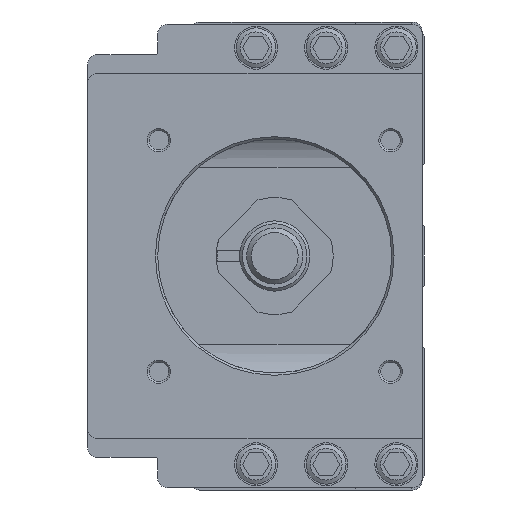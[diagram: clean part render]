
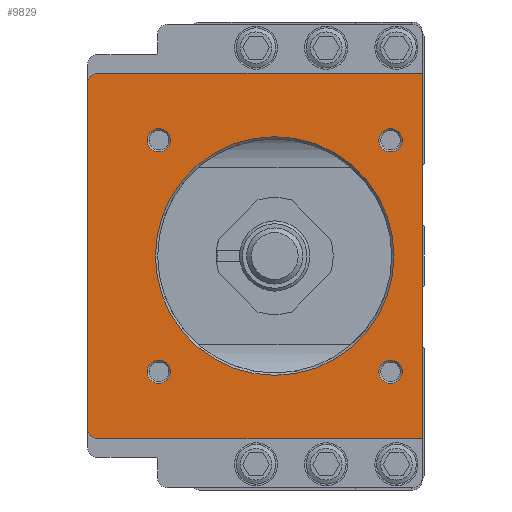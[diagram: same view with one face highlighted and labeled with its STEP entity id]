
A CAD part, left-side view. The second image highlights one B-rep face of the part: STEP entity #9829.
In plain terms, the highlighted planar face has unit normal (-1, 0, 0).
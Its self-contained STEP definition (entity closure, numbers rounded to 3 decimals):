
#422=LINE('',#14680,#1342);
#444=LINE('',#14726,#1364);
#671=LINE('',#15408,#1591);
#672=LINE('',#15410,#1592);
#1342=VECTOR('',#11597,1000.);
#1364=VECTOR('',#11625,1000.);
#1591=VECTOR('',#12334,1000.);
#1592=VECTOR('',#12337,1000.);
#3055=ORIENTED_EDGE('',*,*,#5286,.T.);
#3056=ORIENTED_EDGE('',*,*,#5287,.T.);
#3057=ORIENTED_EDGE('',*,*,#5288,.T.);
#3058=ORIENTED_EDGE('',*,*,#5289,.T.);
#3059=ORIENTED_EDGE('',*,*,#5290,.T.);
#3060=ORIENTED_EDGE('',*,*,#5280,.F.);
#3061=ORIENTED_EDGE('',*,*,#4958,.F.);
#3062=ORIENTED_EDGE('',*,*,#5285,.F.);
#3063=ORIENTED_EDGE('',*,*,#5283,.F.);
#3064=ORIENTED_EDGE('',*,*,#4934,.F.);
#3065=ORIENTED_EDGE('',*,*,#5282,.F.);
#4934=EDGE_CURVE('',#6223,#6224,#422,.T.);
#4958=EDGE_CURVE('',#6244,#6245,#444,.T.);
#5280=EDGE_CURVE('',#6245,#6458,#7176,.T.);
#5282=EDGE_CURVE('',#6458,#6223,#671,.T.);
#5283=EDGE_CURVE('',#6224,#6459,#672,.T.);
#5285=EDGE_CURVE('',#6459,#6244,#7177,.T.);
#5286=EDGE_CURVE('',#6460,#6460,#7178,.T.);
#5287=EDGE_CURVE('',#6461,#6461,#7179,.T.);
#5288=EDGE_CURVE('',#6462,#6462,#7180,.T.);
#5289=EDGE_CURVE('',#6463,#6463,#7181,.T.);
#5290=EDGE_CURVE('',#6464,#6464,#7182,.T.);
#6223=VERTEX_POINT('',#14679);
#6224=VERTEX_POINT('',#14681);
#6244=VERTEX_POINT('',#14725);
#6245=VERTEX_POINT('',#14727);
#6458=VERTEX_POINT('',#15405);
#6459=VERTEX_POINT('',#15411);
#6460=VERTEX_POINT('',#15417);
#6461=VERTEX_POINT('',#15419);
#6462=VERTEX_POINT('',#15421);
#6463=VERTEX_POINT('',#15423);
#6464=VERTEX_POINT('',#15425);
#7176=CIRCLE('',#10634,2.);
#7177=CIRCLE('',#10638,2.);
#7178=CIRCLE('',#10640,2.5);
#7179=CIRCLE('',#10641,2.5);
#7180=CIRCLE('',#10642,2.5);
#7181=CIRCLE('',#10643,2.5);
#7182=CIRCLE('',#10644,25.5);
#7659=EDGE_LOOP('',(#3055));
#7660=EDGE_LOOP('',(#3056));
#7661=EDGE_LOOP('',(#3057));
#7662=EDGE_LOOP('',(#3058));
#7663=EDGE_LOOP('',(#3059));
#7664=EDGE_LOOP('',(#3060,#3061,#3062,#3063,#3064,#3065));
#8591=FACE_BOUND('',#7659,.T.);
#8592=FACE_BOUND('',#7660,.T.);
#8593=FACE_BOUND('',#7661,.T.);
#8594=FACE_BOUND('',#7662,.T.);
#8595=FACE_BOUND('',#7663,.T.);
#8596=FACE_BOUND('',#7664,.T.);
#9392=PLANE('',#10639);
#9829=ADVANCED_FACE('',(#8591,#8592,#8593,#8594,#8595,#8596),#9392,.F.);
#10634=AXIS2_PLACEMENT_3D('',#15404,#12329,#12330);
#10638=AXIS2_PLACEMENT_3D('',#15414,#12341,#12342);
#10639=AXIS2_PLACEMENT_3D('',#15415,#12343,#12344);
#10640=AXIS2_PLACEMENT_3D('',#15416,#12345,#12346);
#10641=AXIS2_PLACEMENT_3D('',#15418,#12347,#12348);
#10642=AXIS2_PLACEMENT_3D('',#15420,#12349,#12350);
#10643=AXIS2_PLACEMENT_3D('',#15422,#12351,#12352);
#10644=AXIS2_PLACEMENT_3D('',#15424,#12353,#12354);
#11597=DIRECTION('',(0.,0.,-1.));
#11625=DIRECTION('',(0.,0.,1.));
#12329=DIRECTION('',(1.,0.,0.));
#12330=DIRECTION('',(0.,0.,-1.));
#12334=DIRECTION('',(0.,-1.,0.));
#12337=DIRECTION('',(0.,1.,0.));
#12341=DIRECTION('',(1.,0.,0.));
#12342=DIRECTION('',(0.,0.,-1.));
#12343=DIRECTION('',(1.,0.,0.));
#12344=DIRECTION('',(0.,0.,-1.));
#12345=DIRECTION('',(1.,0.,0.));
#12346=DIRECTION('',(0.,0.,-1.));
#12347=DIRECTION('',(1.,0.,0.));
#12348=DIRECTION('',(0.,0.,-1.));
#12349=DIRECTION('',(1.,0.,0.));
#12350=DIRECTION('',(0.,0.,-1.));
#12351=DIRECTION('',(1.,0.,0.));
#12352=DIRECTION('',(0.,0.,-1.));
#12353=DIRECTION('',(1.,0.,0.));
#12354=DIRECTION('',(0.,0.,-1.));
#14679=CARTESIAN_POINT('',(-94.,-31.5,39.));
#14680=CARTESIAN_POINT('',(-94.,-31.5,39.));
#14681=CARTESIAN_POINT('',(-94.,-31.5,-39.));
#14725=CARTESIAN_POINT('',(-94.,40.,-37.));
#14726=CARTESIAN_POINT('',(-94.,40.,-37.));
#14727=CARTESIAN_POINT('',(-94.,40.,37.));
#15404=CARTESIAN_POINT('',(-94.,38.,37.));
#15405=CARTESIAN_POINT('',(-94.,38.,39.));
#15408=CARTESIAN_POINT('',(-94.,38.,39.));
#15410=CARTESIAN_POINT('',(-94.,-31.5,-39.));
#15411=CARTESIAN_POINT('',(-94.,38.,-39.));
#15414=CARTESIAN_POINT('',(-94.,38.,-37.));
#15415=CARTESIAN_POINT('',(-94.,38.,37.));
#15416=CARTESIAN_POINT('',(-94.,24.749,-24.749));
#15417=CARTESIAN_POINT('',(-94.,24.749,-27.249));
#15418=CARTESIAN_POINT('',(-94.,-24.749,24.749));
#15419=CARTESIAN_POINT('',(-94.,-24.749,22.249));
#15420=CARTESIAN_POINT('',(-94.,-24.749,-24.749));
#15421=CARTESIAN_POINT('',(-94.,-24.749,-27.249));
#15422=CARTESIAN_POINT('',(-94.,24.749,24.749));
#15423=CARTESIAN_POINT('',(-94.,24.749,22.249));
#15424=CARTESIAN_POINT('',(-94.,0.,0.));
#15425=CARTESIAN_POINT('',(-94.,0.,-25.5));
